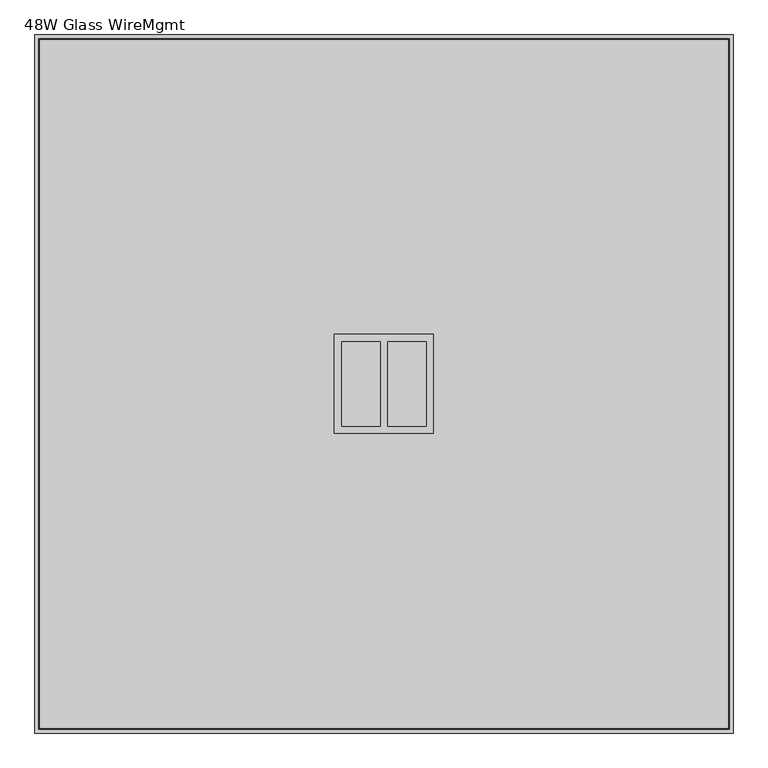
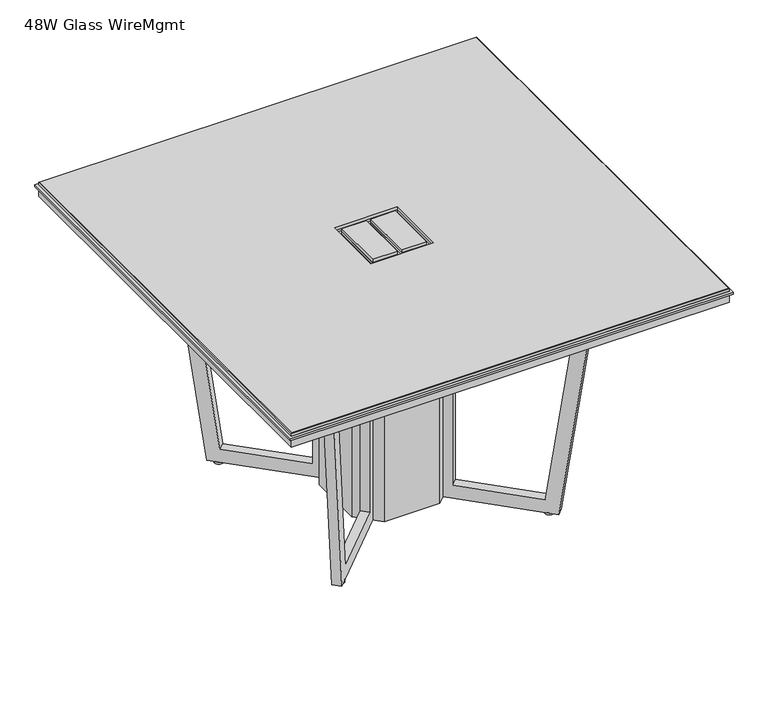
"""IFC4 building model written with IfcOpenShell, lengths in millimetres: furniture geometry, Knoll_Datesweiser_Tables_Meeting_Highline_Square : 48W Glass WireMgmt."""

import ifcopenshell
import ifcopenshell.guid

model = None  # the IFC model being written
_history = None  # IfcOwnerHistory: only IFC2X3 demands one
_inside = {}  # id of a spatial element -> (the spatial element, [elements in it])
_under = {}  # id of a project, library or spatial element -> (it, [spatial elements below it])
_declared = {}  # id of a project -> (the project, [libraries it declares])
_typed = {}  # id of a type object -> (the type object, [elements of that type])
_made_of = {}  # id of a material, layer set ... -> (it, [elements and type objects made of it])


def new_model(schema):
    """Start an empty IFC model of exactly this schema.

    Asked for "IFC4X3", IfcOpenShell would pick the latest addendum, in which some entities
    have other attributes; the version numbers below select the first issue.
    IFC2X3 requires an IfcOwnerHistory on every rooted entity: one is made here for all.
    """
    global model, _history
    if schema == "IFC4X3":
        model = ifcopenshell.file(schema_version=(4, 3, 0, 0))
    else:
        model = ifcopenshell.file(schema=schema)
    _inside.clear()
    _under.clear()
    _declared.clear()
    _typed.clear()
    _made_of.clear()
    _history = None
    if model.schema == "IFC2X3":
        org = make("IfcOrganization", Name="unknown")
        user = make(
            "IfcPersonAndOrganization",
            ThePerson=make("IfcPerson", FamilyName="unknown"),
            TheOrganization=org,
        )
        app = make(
            "IfcApplication",
            ApplicationDeveloper=org,
            Version="unknown",
            ApplicationFullName="unknown",
            ApplicationIdentifier="unknown",
        )
        _history = make(
            "IfcOwnerHistory",
            OwningUser=user,
            OwningApplication=app,
            ChangeAction="ADDED",
            CreationDate=0,
        )
    return model


def make(cls, **values):
    """One entity of the class cls with the attributes given. An attribute that is None is left unset."""
    return model.create_entity(
        cls, **{name: value for name, value in values.items() if value is not None}
    )


def rooted(cls, **values):
    """An entity with a GlobalId (a new one), such as an element, a storey or a relation."""
    return make(cls, GlobalId=ifcopenshell.guid.new(), OwnerHistory=_history, **values)


def si_unit(unit_type, name, prefix=None):
    """IfcSIUnit, for example si_unit("LENGTHUNIT", "METRE", prefix="MILLI")."""
    return make("IfcSIUnit", UnitType=unit_type, Prefix=prefix, Name=name)


def assignment(units):
    """IfcUnitAssignment: the units of a project."""
    return None if units is None else make("IfcUnitAssignment", Units=units)


def point(xyz):
    """IfcCartesianPoint."""
    return None if xyz is None else make("IfcCartesianPoint", Coordinates=xyz)


def direction(xyz):
    """IfcDirection."""
    return None if xyz is None else make("IfcDirection", DirectionRatios=xyz)


def frame(location, z_axis=None, x_axis=None):
    """IfcAxis2Placement3D, a coordinate frame: its origin and axes. An axis left out is left unset."""
    return make(
        "IfcAxis2Placement3D",
        Location=point(location),
        Axis=direction(z_axis),
        RefDirection=direction(x_axis),
    )


def frame_2d(location, x_axis=None):
    """IfcAxis2Placement2D, a coordinate frame in the plane: its origin and x axis."""
    return make(
        "IfcAxis2Placement2D", Location=point(location), RefDirection=direction(x_axis)
    )


def origin():
    """The frame at (0, 0, 0) with its axes left unset."""
    return frame((0.0, 0.0, 0.0))


def origin_with_axes():
    """The frame at (0, 0, 0) with the z axis (0, 0, 1) and the x axis (1, 0, 0) written out."""
    return frame((0.0, 0.0, 0.0), z_axis=(0.0, 0.0, 1.0), x_axis=(1.0, 0.0, 0.0))


def place(relative_to, where):
    """IfcLocalPlacement: puts the frame where relative to a parent placement (None: the world)."""
    return make(
        "IfcLocalPlacement", PlacementRelTo=relative_to, RelativePlacement=where
    )


def context(
    kind, dimensions, precision=None, world=None, true_north=None, identifier=None
):
    """IfcGeometricRepresentationContext, for example the 3D "Model" context."""
    return make(
        "IfcGeometricRepresentationContext",
        ContextIdentifier=identifier,
        ContextType=kind,
        CoordinateSpaceDimension=dimensions,
        Precision=precision,
        WorldCoordinateSystem=world,
        TrueNorth=true_north,
    )


def project(units=None, contexts=None):
    """IfcProject with its units and contexts."""
    return rooted(
        "IfcProject",
        Name="project",
        RepresentationContexts=contexts,
        UnitsInContext=assignment(units),
    )


def spatial(cls, under=None, at=None, **own):
    """A site, building, storey or space (cls), placed at a placement, below another one or the project."""
    s = rooted(cls, ObjectPlacement=at, **own)
    if under is not None:
        _under.setdefault(under.id(), (under, []))[1].append(s)
    return s


def polyline(points):
    """IfcPolyline through the points."""
    return make("IfcPolyline", Points=[point(p) for p in points])


def circle_curve(where, radius):
    """IfcCircle in the frame where."""
    return make("IfcCircle", Position=where, Radius=radius)


def trimmed(basis, trim1, trim2, sense, master):
    """IfcTrimmedCurve: the piece of a basis curve between two trims."""
    return make(
        "IfcTrimmedCurve",
        BasisCurve=basis,
        Trim1=trim1,
        Trim2=trim2,
        SenseAgreement=sense,
        MasterRepresentation=master,
    )


def segment(curve, same_sense, transition):
    """IfcCompositeCurveSegment."""
    return make(
        "IfcCompositeCurveSegment",
        Transition=transition,
        SameSense=same_sense,
        ParentCurve=curve,
    )


def composite_curve(segments, self_intersect=None):
    """IfcCompositeCurve: segments joined end to end."""
    return make("IfcCompositeCurve", Segments=segments, SelfIntersect=self_intersect)


def outline(outer, holes=None, kind="AREA"):
    """IfcArbitraryClosedProfileDef: a profile drawn as a closed curve; with holes, ...WithVoids."""
    if holes is None:
        return make("IfcArbitraryClosedProfileDef", ProfileType=kind, OuterCurve=outer)
    return make(
        "IfcArbitraryProfileDefWithVoids",
        ProfileType=kind,
        OuterCurve=outer,
        InnerCurves=holes,
    )


def extrude(swept, where, along, depth):
    """IfcExtrudedAreaSolid: the profile swept, set in the frame where, extruded along a direction by depth."""
    return make(
        "IfcExtrudedAreaSolid",
        SweptArea=swept,
        Position=where,
        ExtrudedDirection=direction(along),
        Depth=depth,
    )


def faces_of(points, faces, orient=None, outer=None):
    """IfcFace entities. A face is a list of loops; a loop is a list of indices into points, from 0.

    orient and outer hold one flag for each loop. By default every Orientation is true, the
    first loop of a face is its IfcFaceOuterBound and the others are IfcFaceBound.
    """
    made = []
    for i, loops in enumerate(faces):
        bounds = []
        for j, loop in enumerate(loops):
            is_outer = j == 0 if outer is None else outer[i][j]
            bounds.append(
                make(
                    "IfcFaceOuterBound" if is_outer else "IfcFaceBound",
                    Bound=make("IfcPolyLoop", Polygon=[points[k] for k in loop]),
                    Orientation=True if orient is None else orient[i][j],
                )
            )
        made.append(make("IfcFace", Bounds=bounds))
    return made


def faceted_brep(points, faces, orient=None, outer=None, voids=None):
    """IfcFacetedBrep: a solid bounded by flat faces; with voids (closed shells), ...WithVoids."""
    shared = [point(p) for p in points]
    hull = make("IfcClosedShell", CfsFaces=faces_of(shared, faces, orient, outer))
    if voids is None:
        return make("IfcFacetedBrep", Outer=hull)
    return make(
        "IfcFacetedBrepWithVoids",
        Outer=hull,
        Voids=[
            make(cls, CfsFaces=faces_of(shared, fs, o, b)) for cls, fs, o, b in voids
        ],
    )


def shape(context_of_items, identifier, shape_type, items):
    """IfcShapeRepresentation: the items that make up one representation, for example the "Body"."""
    return make(
        "IfcShapeRepresentation",
        ContextOfItems=context_of_items,
        RepresentationIdentifier=identifier,
        RepresentationType=shape_type,
        Items=items,
    )


def source(mapping_origin, context_of_items, identifier, shape_type, items):
    """IfcRepresentationMap: a shape defined once, which mapped items show again and again."""
    return make(
        "IfcRepresentationMap",
        MappingOrigin=mapping_origin,
        MappedRepresentation=shape(context_of_items, identifier, shape_type, items),
    )


def transform(
    local_origin,
    x_axis=None,
    y_axis=None,
    z_axis=None,
    scale=None,
    scale2=None,
    scale3=None,
    uniform=True,
):
    """IfcCartesianTransformationOperator3D, or its non-uniform kind. x_axis, y_axis, z_axis: its Axis1, 2, 3."""
    if uniform:
        return make(
            "IfcCartesianTransformationOperator3D",
            Axis1=direction(x_axis),
            Axis2=direction(y_axis),
            LocalOrigin=point(local_origin),
            Scale=scale,
            Axis3=direction(z_axis),
        )
    return make(
        "IfcCartesianTransformationOperator3DnonUniform",
        Axis1=direction(x_axis),
        Axis2=direction(y_axis),
        LocalOrigin=point(local_origin),
        Scale=scale,
        Axis3=direction(z_axis),
        Scale2=scale2,
        Scale3=scale3,
    )


def mapped(mapping_source, mapping_target):
    """IfcMappedItem: shows the shape of a source again, moved by a transform."""
    return make(
        "IfcMappedItem", MappingSource=mapping_source, MappingTarget=mapping_target
    )


def made_of(thing, what):
    """Note that an element or type object is made of a material, layer set ...; save() writes the relation."""
    if what is not None:
        _made_of.setdefault(what.id(), (what, []))[1].append(thing)
    return thing


def element(
    cls,
    number,
    at=None,
    inside=None,
    cuts=None,
    type_object=None,
    material=None,
    context=None,
    identifier="Body",
    shape_type=None,
    held_by="IfcProductDefinitionShape",
    body=None,
    shapes=None,
    **own,
):
    """One element of the class cls, such as IfcWall. Its Tag is "e" and its number.

    at: its placement. inside: the storey or other place that contains it. cuts: it is an
    opening in that element (IfcRelVoidsElement). A single representation is given by context,
    identifier, shape_type and body (its items); several are given by shapes. held_by: the class
    of the entity that holds the representations. save() writes the other relations.
    """
    e = rooted(cls, Tag="e%d" % number, ObjectPlacement=at, **own)
    if body is not None:
        shapes = [shape(context, identifier, shape_type, body)]
    if shapes is not None:
        e.Representation = make(held_by, Representations=shapes)
    if inside is not None:
        _inside.setdefault(inside.id(), (inside, []))[1].append(e)
    if cuts is not None:
        rooted(
            "IfcRelVoidsElement", RelatingBuildingElement=cuts, RelatedOpeningElement=e
        )
    if type_object is not None:
        _typed.setdefault(type_object.id(), (type_object, []))[1].append(e)
    return made_of(e, material)


def aggregate(whole, parts):
    """IfcRelAggregates: a whole, such as a stair, and the parts it consists of."""
    return rooted("IfcRelAggregates", RelatingObject=whole, RelatedObjects=parts)


def save(model, path):
    """Write the relations noted so far, then the file.

    IfcRelAggregates (storeys below a building ...), IfcRelContainedInSpatialStructure (elements
    in a storey), IfcRelDefinesByType, IfcRelAssociatesMaterial and IfcRelDeclares: one each for
    every whole, place, type object, material and project.
    """
    for whole, parts in _under.values():
        aggregate(whole, parts)
    for where, things in _inside.values():
        rooted(
            "IfcRelContainedInSpatialStructure",
            RelatedElements=things,
            RelatingStructure=where,
        )
    for kind, things in _typed.values():
        rooted("IfcRelDefinesByType", RelatedObjects=things, RelatingType=kind)
    for what, things in _made_of.values():
        rooted("IfcRelAssociatesMaterial", RelatedObjects=things, RelatingMaterial=what)
    for by, libraries in _declared.values():
        rooted("IfcRelDeclares", RelatingContext=by, RelatedDefinitions=libraries)
    model.write(path)


def furniture_48w_glass_wiremgmt_02095115(model_context):
    return source(origin(), model_context, "Body", "SolidModel", [
        extrude(outline(polyline([(609.6, 609.6), (609.6, -609.6), (-609.6, -609.6), (-609.6, 609.6), (609.6, 609.6)])), frame((0.0, 0.0, 698.5), z_axis=(0.0, 0.0, 1.0), x_axis=(1.0, 0.0, 0.0)), (0.0, 0.0, 1.0), 25.4),
        extrude(outline(polyline([(615.95, 615.95), (615.95, -615.95), (-615.95, -615.95), (-615.95, 615.95), (615.95, 615.95)]), holes=[polyline([(-87.3125, -87.3125), (87.3125, -87.3125), (87.3125, 87.3125), (-87.3125, 87.3125), (-87.3125, -87.3125)])]), frame((0.0, 0.0, 723.9), z_axis=(0.0, 0.0, 1.0), x_axis=(1.0, 0.0, 0.0)), (0.0, 0.0, 1.0), 6.35),
        extrude(outline(polyline([(6.35, -74.6125), (6.35, 74.6125), (74.6125, 74.6125), (74.6125, -74.6125), (6.35, -74.6125)])), frame((0.0, 0.0, 723.9), z_axis=(0.0, 0.0, 1.0), x_axis=(1.0, 0.0, 0.0)), (0.0, 0.0, 1.0), 6.35),
        extrude(outline(polyline([(-6.35, 74.6125), (-6.35, -74.6125), (-74.6125, -74.6125), (-74.6125, 74.6125), (-6.35, 74.6125)])), frame((0.0, 0.0, 723.9), z_axis=(0.0, 0.0, 1.0), x_axis=(1.0, 0.0, 0.0)), (0.0, 0.0, 1.0), 6.35),
        faceted_brep([(-609.6, 609.6, 738.759), (-609.6, 609.6, 731.266), (-609.6, -609.6, 731.266), (-609.6, -609.6, 738.759), (-608.584, -608.584, 739.775), (-608.584, 608.584, 739.775), (-608.584, 608.584, 730.25), (-608.584, -608.584, 730.25), (609.6, -609.6, 731.266), (609.6, -609.6, 738.759), (608.584, -608.584, 739.775), (608.584, -608.584, 730.25), (609.6, 609.6, 731.266), (609.6, 609.6, 738.759), (608.584, 608.584, 739.775), (608.584, 608.584, 730.25), (87.3125, -87.3125, 739.775), (-87.3125, -87.3125, 739.775), (-87.3125, 87.3125, 739.775), (87.3125, 87.3125, 739.775), (-87.3125, -87.3125, 730.25), (87.3125, -87.3125, 730.25), (87.3125, 87.3125, 730.25), (-87.3125, 87.3125, 730.25)], [[[0, 1, 2, 3]], [[0, 3, 4, 5]], [[2, 1, 6, 7]], [[3, 2, 8, 9]], [[4, 3, 9, 10]], [[2, 7, 11, 8]], [[9, 8, 12, 13]], [[10, 9, 13, 14]], [[8, 11, 15, 12]], [[1, 0, 13, 12]], [[0, 5, 14, 13]], [[6, 1, 12, 15]], [[5, 4, 10, 14], [16, 17, 18, 19]], [[7, 6, 15, 11], [20, 21, 22, 23]], [[16, 21, 20, 17]], [[17, 20, 23, 18]], [[18, 23, 22, 19]], [[21, 16, 19, 22]]]),
        faceted_brep([(6.35, 74.6125, 739.775), (6.35, -74.6125, 739.775), (74.6125, -74.6125, 739.775), (74.6125, 74.6125, 739.775), (6.35, -74.6125, 730.25), (6.35, 74.6125, 730.25), (74.6125, 74.6125, 730.25), (74.6125, -74.6125, 730.25)], [[[0, 1, 2, 3]], [[4, 5, 6, 7]], [[0, 5, 4, 1]], [[1, 4, 7, 2]], [[2, 7, 6, 3]], [[5, 0, 3, 6]]]),
        faceted_brep([(-6.35, -74.6125, 739.775), (-6.35, 74.6125, 739.775), (-74.6125, 74.6125, 739.775), (-74.6125, -74.6125, 739.775), (-6.35, 74.6125, 730.25), (-6.35, -74.6125, 730.25), (-74.6125, -74.6125, 730.25), (-74.6125, 74.6125, 730.25)], [[[0, 1, 2, 3]], [[4, 5, 6, 7]], [[0, 5, 4, 1]], [[1, 4, 7, 2]], [[2, 7, 6, 3]], [[5, 0, 3, 6]]]),
        extrude(outline(composite_curve([segment(trimmed(circle_curve(frame_2d((-291.4942533, -291.4942533)), 12.7), [point((-278.7942533, -291.4942533))], [point((-304.1942533, -291.4942533))], False, "CARTESIAN"), True, "CONTINUOUS"), segment(trimmed(circle_curve(frame_2d((-291.4942533, -291.4942533)), 12.7), [point((-304.1942533, -291.4942533))], [point((-278.7942533, -291.4942533))], False, "CARTESIAN"), True, "CONTINUOUS")], self_intersect=False)), origin_with_axes(), (0.0, 0.0, 1.0), 5.9867797),
        extrude(outline(composite_curve([segment(trimmed(circle_curve(frame_2d((-291.4942533, 291.4942533)), 12.7), [point((-278.7942533, 291.4942533))], [point((-304.1942533, 291.4942533))], False, "CARTESIAN"), True, "CONTINUOUS"), segment(trimmed(circle_curve(frame_2d((-291.4942533, 291.4942533)), 12.7), [point((-304.1942533, 291.4942533))], [point((-278.7942533, 291.4942533))], False, "CARTESIAN"), True, "CONTINUOUS")], self_intersect=False)), origin_with_axes(), (0.0, 0.0, 1.0), 5.9867797),
        extrude(outline(composite_curve([segment(trimmed(circle_curve(frame_2d((291.4942533, -291.4942533)), 12.7), [point((304.1942533, -291.4942533))], [point((278.7942533, -291.4942533))], False, "CARTESIAN"), True, "CONTINUOUS"), segment(trimmed(circle_curve(frame_2d((291.4942533, -291.4942533)), 12.7), [point((278.7942533, -291.4942533))], [point((304.1942533, -291.4942533))], False, "CARTESIAN"), True, "CONTINUOUS")], self_intersect=False)), origin_with_axes(), (0.0, 0.0, 1.0), 5.9867797),
        extrude(outline(composite_curve([segment(trimmed(circle_curve(frame_2d((291.4942533, 291.4942533)), 12.7), [point((304.1942533, 291.4942533))], [point((278.7942533, 291.4942533))], False, "CARTESIAN"), True, "CONTINUOUS"), segment(trimmed(circle_curve(frame_2d((291.4942533, 291.4942533)), 12.7), [point((278.7942533, 291.4942533))], [point((304.1942533, 291.4942533))], False, "CARTESIAN"), True, "CONTINUOUS")], self_intersect=False)), origin_with_axes(), (0.0, 0.0, 1.0), 5.9867797),
        extrude(outline(polyline([(687.3294598, 0.0), (687.7189281, -302.8812361), (-4.9389753, -400.2213524), (-4.9386158, -361.7469045), (649.4754872, -269.7812402), (649.4776515, -38.0996402), (-4.9355924, -38.0935268), (-4.9352365, 0.0), (687.3294598, 0.0)])), frame((87.5574969, -105.5180091, 693.5647877), z_axis=(0.7071067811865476, 0.7071067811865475, 0.0), x_axis=(-6.605612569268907e-06, 6.605612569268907e-06, -0.9999999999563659)), (0.0, 0.0, 1.0), 25.4),
        extrude(outline(polyline([(687.3320105, 273.0371574), (-4.9326857, 273.0500913), (-4.9323299, 311.1436182), (649.480914, 311.1375048), (649.4830783, 542.8191048), (-4.9293064, 634.7969958), (-4.928947, 673.2714438), (687.7271376, 575.9183862), (687.3320105, 273.0371574)])), frame((87.5574969, -105.5180091, 693.5647877), z_axis=(0.7071067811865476, 0.7071067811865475, 0.0), x_axis=(-6.605612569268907e-06, 6.605612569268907e-06, -0.9999999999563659)), (0.0, 0.0, 1.0), 25.4),
        faceted_brep([(-134.8689207, 77.8517251, 679.2551774), (-134.8689207, -77.8517528, 679.2551774), (-115.3405882, -97.3800759, 679.2551774), (-105.5179146, -87.5574023, 679.2551774), (-87.5574023, -105.5179146, 679.2551774), (-97.3800716, -115.3405838, 679.2551774), (-77.8517251, -134.8689207, 679.2551774), (77.8517251, -134.8689207, 679.2551774), (134.8689207, -77.8517528, 679.2551774), (134.8689207, 77.8517251, 679.2551774), (115.3405838, 97.3800716, 679.2551774), (105.5179146, 87.5574023, 679.2551774), (87.5574023, 105.5179146, 679.2551774), (97.3800759, 115.3405882, 679.2551774), (77.8517528, 134.8689207, 679.2551774), (-77.8517528, 134.8689207, 679.2551774), (-134.8689207, 77.8517251, 5.8810183), (-77.8517528, 134.8689207, 5.8810183), (77.8517528, 134.8689207, 5.8810183), (134.8689207, 77.8517251, 5.8810183), (134.8689207, -77.8517528, 5.8810183), (77.8517251, -134.8689207, 5.8810183), (-77.8517251, -134.8689207, 5.8810183), (-134.8689207, -77.8517528, 5.8810183), (-97.3800716, -115.3405838, 6.2173274), (-115.3405882, -97.3800759, 6.2173274), (97.3800759, 115.3405882, 6.2173274), (115.3405838, 97.3800716, 6.2173274), (87.5575295, 105.5180417, 698.5000242), (114.4937206, 132.4542329, 698.5000242), (114.4937206, 132.4542329, 44.0867803), (278.3173511, 296.2778633, 44.0867803), (343.3512187, 361.311731, 698.5000242), (370.5567618, 388.517274, 698.5000242), (301.72233, 319.6828422, 5.8430302), (-319.6828422, -301.72233, 5.8430302), (-388.517274, -370.5567618, 698.5000242), (-361.311731, -343.3512187, 698.5000242), (-296.2778633, -278.3173511, 44.0867803), (-132.4542329, -114.4937206, 44.0867803), (-132.4542329, -114.4937206, 698.5000242), (-105.5180417, -87.5575295, 698.5000242), (319.6828422, 301.72233, 5.8430302), (388.517274, 370.5567618, 698.5000242), (361.311731, 343.3512187, 698.5000242), (296.2778633, 278.3173511, 44.0867803), (132.4542329, 114.4937206, 44.0867803), (132.4542329, 114.4937206, 698.5000242), (105.5180417, 87.5575295, 698.5000242), (-87.5575295, -105.5180417, 698.5000242), (-114.4937206, -132.4542329, 698.5000242), (-114.4937206, -132.4542329, 44.0867803), (-278.3173511, -296.2778633, 44.0867803), (-343.3512187, -361.311731, 698.5000242), (-370.5567618, -388.517274, 698.5000242), (-301.72233, -319.6828422, 5.8430302)], [[[0, 1, 2, 3, 4, 5, 6, 7, 8, 9, 10, 11, 12, 13, 14, 15]], [[16, 17, 18, 19, 20, 21, 22, 23]], [[1, 0, 16, 23]], [[23, 22, 6, 5, 24, 25, 2, 1]], [[7, 6, 22, 21]], [[8, 7, 21, 20]], [[9, 8, 20, 19]], [[19, 18, 14, 13, 26, 27, 10, 9]], [[15, 14, 18, 17]], [[0, 15, 17, 16]], [[28, 29, 30, 31, 32, 33, 34, 26, 13, 12]], [[35, 36, 37, 38, 39, 40, 41, 3, 2, 25]], [[42, 43, 44, 45, 46, 47, 48, 11, 10, 27]], [[49, 50, 51, 52, 53, 54, 55, 24, 5, 4]], [[31, 30, 46, 45]], [[32, 31, 45, 44]], [[33, 32, 44, 43]], [[34, 33, 43, 42]], [[34, 42, 27, 26]], [[48, 28, 12, 11]], [[29, 28, 48, 47]], [[30, 29, 47, 46]], [[55, 35, 25, 24]], [[36, 35, 55, 54]], [[37, 36, 54, 53]], [[38, 37, 53, 52]], [[39, 38, 52, 51]], [[40, 39, 51, 50]], [[41, 40, 50, 49]], [[41, 49, 4, 3]]]),
    ])


if __name__ == "__main__":
    model = new_model("IFC4")
    model_context = context("Model", 3, world=origin())
    ifc_project = project(units=[si_unit("LENGTHUNIT", "METRE", prefix="MILLI")], contexts=[model_context])
    site = spatial("IfcSite", under=ifc_project)
    building = spatial("IfcBuilding", under=site)
    placement = place(None, origin())
    furniture_48w_glass_wiremgmt_shape = furniture_48w_glass_wiremgmt_02095115(model_context)
    element("IfcFurniture", 1, ObjectType="Knoll_Datesweiser_Tables_Meeting_Highline_Square : 48W Glass WireMgmt", at=placement, inside=building, context=model_context, shape_type="MappedRepresentation", body=[
        mapped(furniture_48w_glass_wiremgmt_shape, transform((0.0, 0.0, 0.0), x_axis=(1.0, 0.0, 0.0), y_axis=(0.0, 1.0, 0.0), z_axis=(0.0, 0.0, 1.0))),
    ])
    save(model, "model.ifc")
